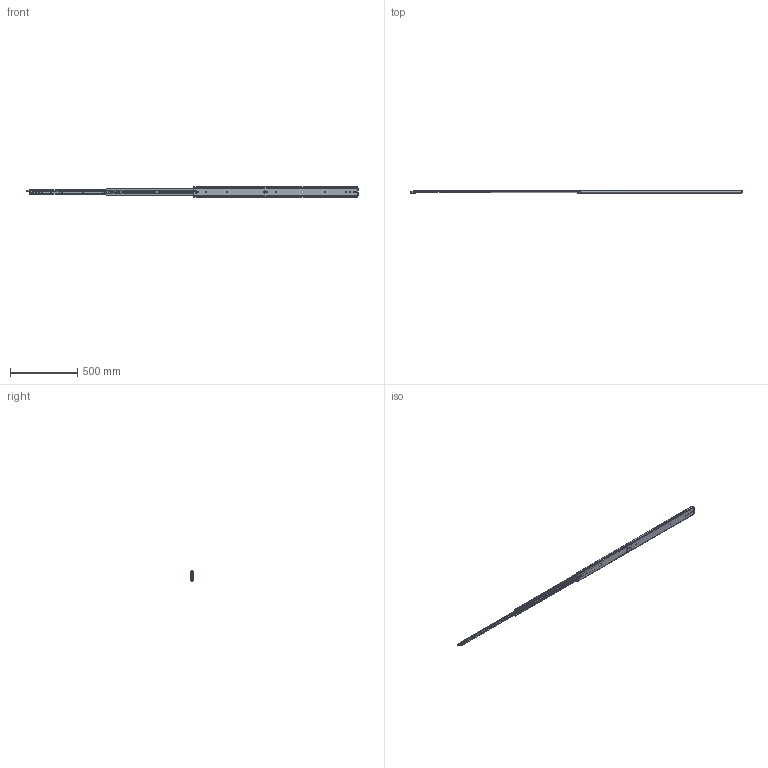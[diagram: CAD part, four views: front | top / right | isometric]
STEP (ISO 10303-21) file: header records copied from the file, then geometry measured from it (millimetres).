
FILE_DESCRIPTION((''),'2;1');
FILE_NAME('DG-76-3S-48YOU_ASM','2023-05-11T',('jishu015'),(''),'PRO/ENGINEER BY PARAMETRIC TECHNOLOGY CORPORATION, 2010280','PRO/ENGINEER BY PARAMETRIC TECHNOLOGY CORPORATION, 2010280','');
FILE_SCHEMA(('CONFIG_CONTROL_DESIGN'));
Products named in the file (29): KP-76-04WAIKE-1816____________; 1076-WAIKEZIDANJIAO1621_; WAIK16_____________ASM; 1076XIAOZHUTIAO-2251621_; 16____________; 1076XIAOZHUTIAO-1751621__ASM; KP-76-04ZHONGGUI181621; 76CHANGGUIZHONGGUIJIAO1621____; 3X6WODIN16____________; ZHONGGUIBAIKOU16____________; PJ-76-30___________; PJ-76-03___________; 76-XIAOZHUJIA-11___________; GANGZHU-XIAO___________; ZHUJIA-XIAO____________ASM; ZHONGGUI6_____________ASM; KP-76-04NEIGUI1816____________; PJ-76-31___________; DAOGPIAN16____________; 1053-3SBANJ01___________; JIAO-11___________; 76XINSUOKOU___________; PJ-338___________; PJ-356___________; PJ-357___________; PJ-336___________; M4X4___________; NEIGUI16_____________ASM; DG-76-3S-48YOU_ASM
Assembly tree (95 placements, depth 4):
  DG-76-3S-48YOU_ASM
    WAIK16_____________ASM
      KP-76-04WAIKE-1816____________
      1076-WAIKEZIDANJIAO1621_  x2
    1076XIAOZHUTIAO-1751621__ASM  x2
      1076XIAOZHUTIAO-2251621_
      16____________
    ZHONGGUI6_____________ASM
      KP-76-04ZHONGGUI181621
      76CHANGGUIZHONGGUIJIAO1621____
      3X6WODIN16____________
      ZHONGGUIBAIKOU16____________
      PJ-76-30___________
      PJ-76-03___________
      ZHUJIA-XIAO____________ASM
        76-XIAOZHUJIA-11___________
        GANGZHU-XIAO___________  x46
    NEIGUI16_____________ASM
      KP-76-04NEIGUI1816____________
      PJ-76-31___________
      DAOGPIAN16____________
      1053-3SBANJ01___________
      JIAO-11___________
      76XINSUOKOU___________
      PJ-338___________
      PJ-356___________
      PJ-357___________
      PJ-336___________
      M4X4___________
Bounding box: 2464.32 x 20.7 x 75.3 mm (x, y, z)
Volume: 802687 mm3; surface area: 774392.8 mm2
Topology: 112 solids, 112 shells, 2679 faces, 8185 edges, 5165 vertices
Faces by surface type: plane 1382, cylinder 987, sphere 183, bspline 60, cone 28, extrusion 23, torus 16
Entity records: 85938 total; most frequent: CARTESIAN_POINT 22805, ORIENTED_EDGE 13890, DIRECTION 12453, EDGE_CURVE 6945, VERTEX_POINT 4525, AXIS2_PLACEMENT_3D 4310, VECTOR 3833, LINE 3810
